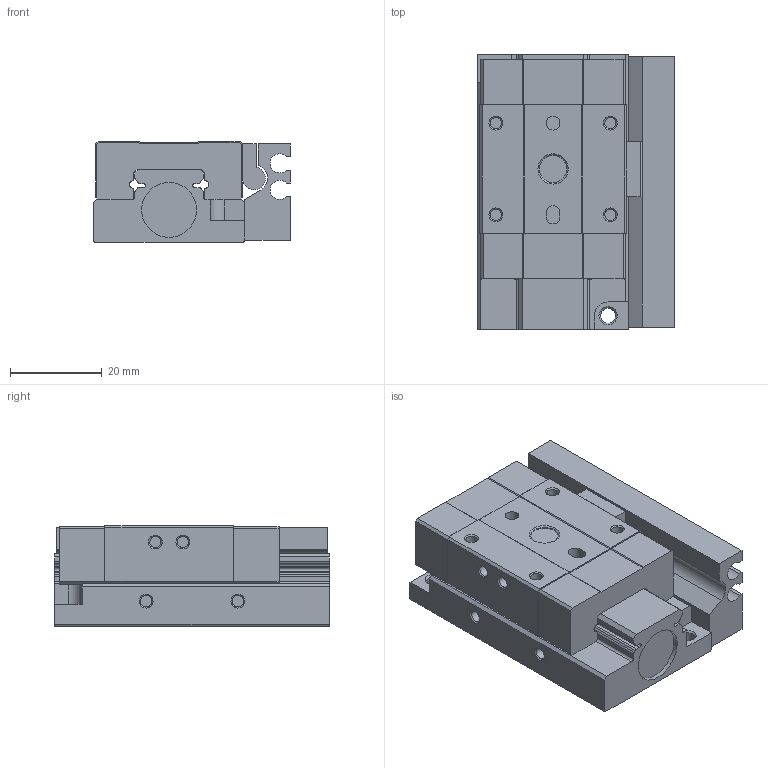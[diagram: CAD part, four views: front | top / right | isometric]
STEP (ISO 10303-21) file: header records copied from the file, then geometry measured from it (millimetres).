
FILE_DESCRIPTION(/* description */ ('STEP AP214'),/* implementation_level */ '2;1');
FILE_NAME(/* name */ 'HGS12X10S(0)',/* time_stamp */ '2024-09-22T10:38:47+02:00',/* author */ ('License CC BY-ND 4.0'),/* organization */ ('CADENAS'),/* preprocessor_version */ 'ST-DEVELOPER v19.3',/* originating_system */ 'PARTsolutions',/* authorisation */ ' ');
FILE_SCHEMA (('AUTOMOTIVE_DESIGN {1 0 10303 214 3 1 1}'));
Length unit declared in the file: millimetre
Products named in the file (5): HGS12X10S(0); HGS12X10S(0)_dummy; HGS12X10S(0)_body; F-HGS12X10H; HGS12X10S(0)_t
Assembly tree (4 placements, depth 2):
  HGS12X10S(0)
    HGS12X10S(0)_dummy
    HGS12X10S(0)_body
    F-HGS12X10H
    HGS12X10S(0)_t
Bounding box: 43 x 60 x 22 mm (x, y, z)
Volume: 44348.3 mm3; surface area: 19730.3 mm2
Topology: 3 solids, 5 shells, 242 faces, 572 edges, 373 vertices
Faces by surface type: plane 144, cylinder 74, cone 24
Full cylindrical faces by diameter (mm): 1 x2, 2.459 x12, 3 x4, 3.242 x2, 3.5 x2, 3.9 x2, 4.134 x4, 5.5 x2, 6 x4, 12 x2
Entity records: 6750 total; most frequent: DIRECTION 1176, CARTESIAN_POINT 1124, ORIENTED_EDGE 1016, EDGE_CURVE 508, AXIS2_PLACEMENT_3D 421, VERTEX_POINT 368, EDGE_LOOP 344, FACE_BOUND 344
